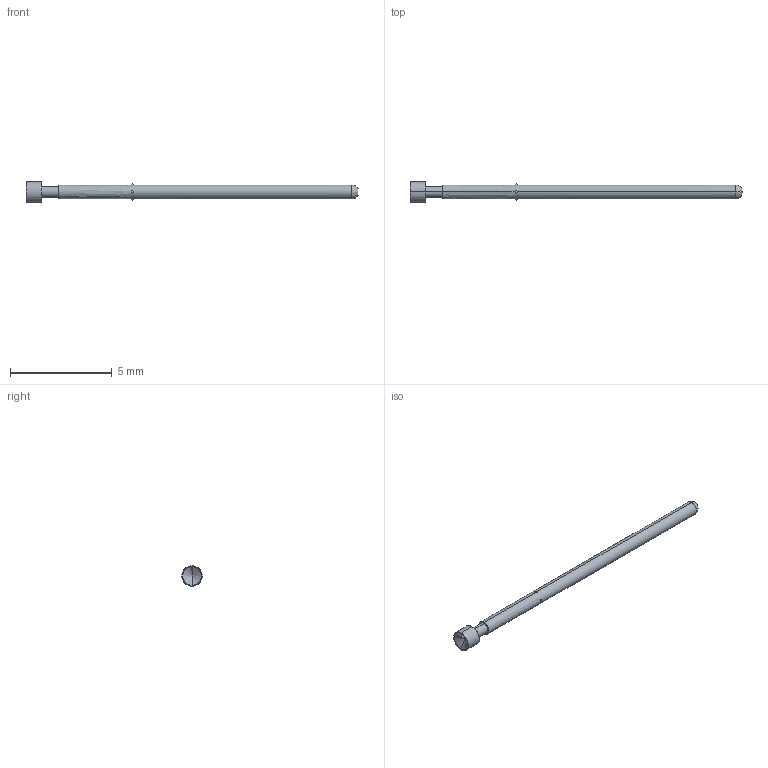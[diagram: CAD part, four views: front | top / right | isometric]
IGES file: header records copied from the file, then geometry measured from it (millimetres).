
Start section: SolidWorks IGES file using analytic representation for surfaces
Global section: file name: O:\PYLON\IGES FILES\P2662A\P2662A-2V1S REC'D.IGS; native system: SolidWorks 2015; preprocessor: SolidWorks 2015; author: kgolden; date: 171019.091509; units: inch
Bounding box: 16.3 x 1.02 x 1.02 mm (x, y, z)
Surface area: 39.8 mm2 (no closed solid volume)
Topology: 0 solids, 0 shells, 24 faces, 256 edges, 238 vertices
Faces by surface type: revolution 18, bspline 6
